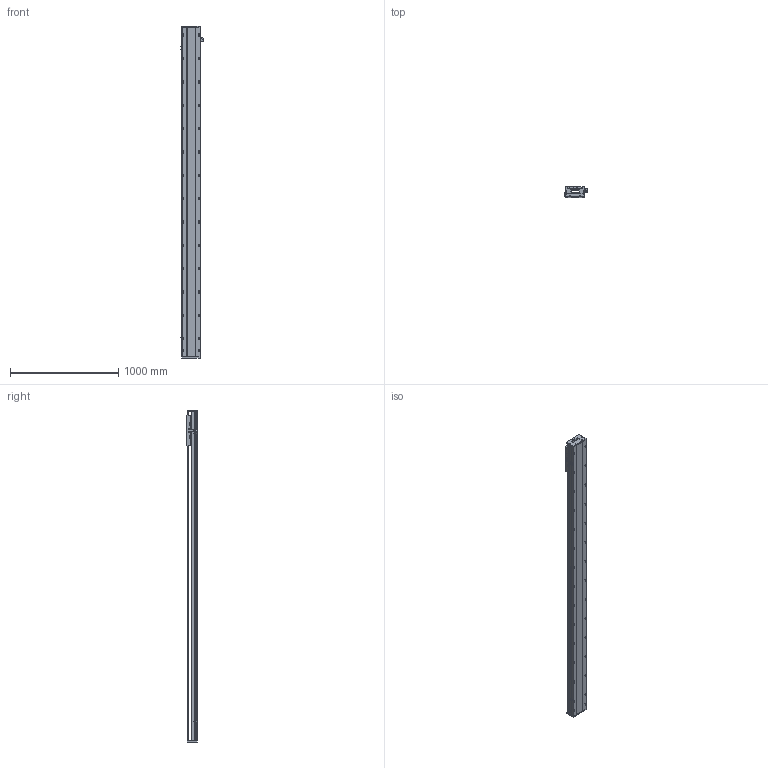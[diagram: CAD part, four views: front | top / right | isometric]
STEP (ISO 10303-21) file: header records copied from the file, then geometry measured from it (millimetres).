
FILE_DESCRIPTION (( 'STEP AP203' ), '1' );
FILE_NAME ('SKR17S-C2-S2692（简）.STEP', '2022-09-29T08:28:50', ( '' ), ( '' ), 'SwSTEP 2.0', 'SolidWorks 2018', '' );
FILE_SCHEMA (( 'CONFIG_CONTROL_DESIGN' ));
Length unit declared in the file: millimetre
Products named in the file (8): 棠掑假蚾輸; SIKO棠掑; SKR17滑台-280L（简）; EE-SX672; SKR17底座-C2-S2692（简); SKR17S-C2-S2692（简）; SKR17耜啣; 感应片（SKR12S-14S-17S）
Assembly tree (10 placements, depth 2):
  SKR17S-C2-S2692（简）
    SKR17底座-C2-S2692（简)
    SIKO棠掑
    EE-SX672  x3
    SKR17耜啣  x2
    棠掑假蚾輸
    SKR17滑台-280L（简）
    感应片（SKR12S-14S-17S）
Bounding box: 212.7 x 97 x 3072 mm (x, y, z)
Volume: 23639383 mm3; surface area: 2841637 mm2
Topology: 11 solids, 11 shells, 1528 faces, 4284 edges, 2748 vertices
Faces by surface type: cylinder 781, plane 593, cone 154
Entity records: 48675 total; most frequent: CARTESIAN_POINT 13647, ORIENTED_EDGE 7508, DIRECTION 6709, EDGE_CURVE 3754, VERTEX_POINT 2452, AXIS2_PLACEMENT_3D 2394, VECTOR 1921, LINE 1921
